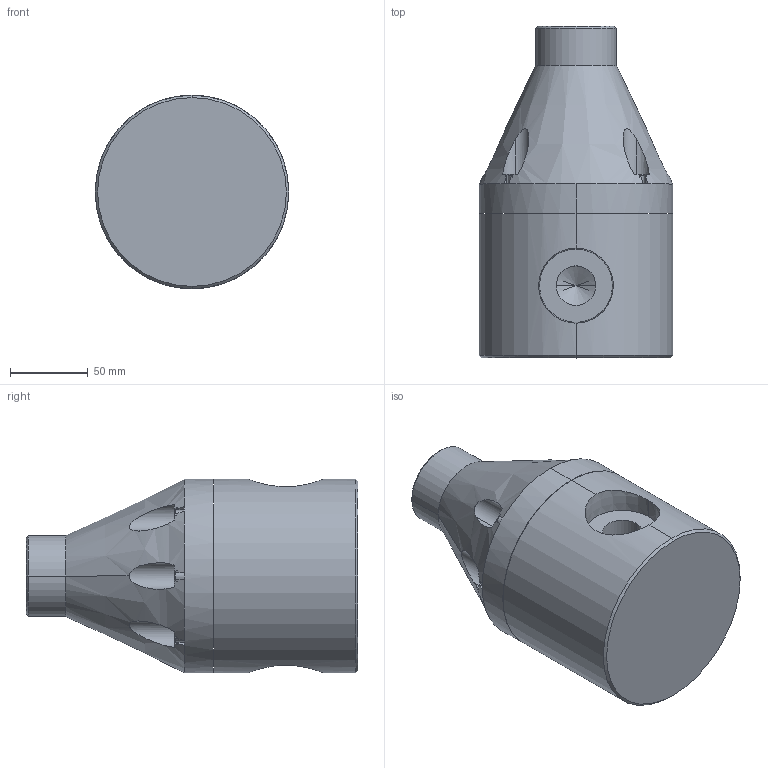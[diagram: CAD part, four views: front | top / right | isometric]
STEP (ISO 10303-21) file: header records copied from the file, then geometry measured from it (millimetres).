
FILE_DESCRIPTION (( 'STEP AP203' ), '1' );
FILE_NAME ('GBP1500-NPT.STEP', '2015-04-27T10:00:23', ( 'Dan Bernard' ), ( '' ), 'SwSTEP 2.0', 'SolidWorks 2008', '' );
FILE_SCHEMA (( 'CONFIG_CONTROL_DESIGN' ));
Length unit declared in the file: inch
Products named in the file (1): GBP1500-NPT
Bounding box: 124.46 x 213.36 x 124.46 mm (x, y, z)
Volume: 1814711.5 mm3; surface area: 107385.6 mm2
Topology: 1 solids, 1 shells, 197 faces, 496 edges, 316 vertices
Faces by surface type: plane 125, cylinder 40, cone 20, torus 12
Entity records: 6543 total; most frequent: CARTESIAN_POINT 1756, ORIENTED_EDGE 984, DIRECTION 962, EDGE_CURVE 492, AXIS2_PLACEMENT_3D 330, VERTEX_POINT 316, VECTOR 302, LINE 302
